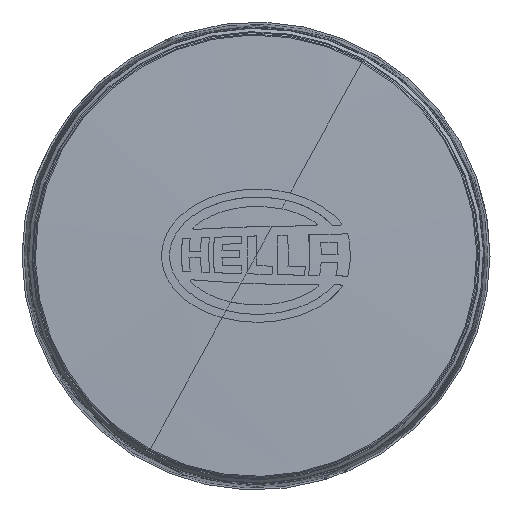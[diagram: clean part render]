
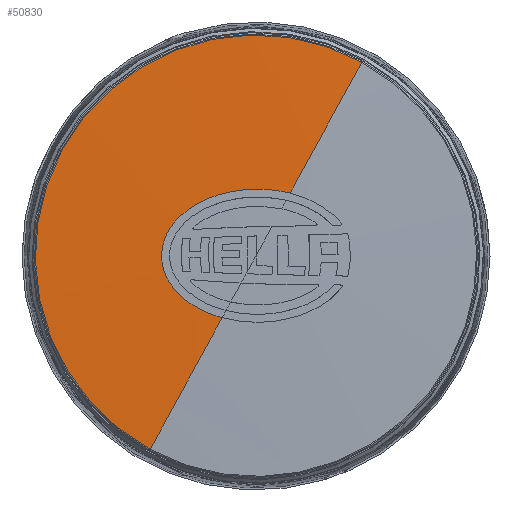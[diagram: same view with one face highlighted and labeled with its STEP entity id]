
A CAD part, top view. The second image highlights one B-rep face of the part: STEP entity #50830.
In plain terms, the highlighted spherical face has radius 2000 mm.
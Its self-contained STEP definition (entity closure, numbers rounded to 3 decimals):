
#5807=AXIS2_PLACEMENT_3D('Sphere Axis2P3D',#5804,#5805,#5806) ;
#50771=AXIS2_PLACEMENT_3D('Circle Axis2P3D',#50769,#50770,$) ;
#50785=AXIS2_PLACEMENT_3D('Circle Axis2P3D',#50783,#50784,$) ;
#50819=AXIS2_PLACEMENT_3D('Circle Axis2P3D',#50817,#50818,$) ;
#5804=CARTESIAN_POINT('Axis2P3D Location',(0.,0.,-1974.28)) ;
#42128=CARTESIAN_POINT('Vertex',(-30.151,-0.001,25.493)) ;
#42132=CARTESIAN_POINT('Control Point',(-30.151,-0.001,25.493)) ;
#42133=CARTESIAN_POINT('Control Point',(-30.151,-0.007,25.493)) ;
#42134=CARTESIAN_POINT('Control Point',(-30.152,-0.012,25.493)) ;
#42135=CARTESIAN_POINT('Control Point',(-30.151,-0.017,25.493)) ;
#42136=CARTESIAN_POINT('Control Point',(-30.151,-0.045,25.493)) ;
#42137=CARTESIAN_POINT('Control Point',(-30.151,-0.073,25.493)) ;
#42138=CARTESIAN_POINT('Control Point',(-30.151,-0.095,25.493)) ;
#42139=CARTESIAN_POINT('Control Point',(-30.15,-0.146,25.493)) ;
#42140=CARTESIAN_POINT('Control Point',(-30.15,-0.196,25.493)) ;
#42141=CARTESIAN_POINT('Control Point',(-30.149,-0.224,25.493)) ;
#42142=CARTESIAN_POINT('Control Point',(-30.148,-0.308,25.493)) ;
#42143=CARTESIAN_POINT('Control Point',(-30.146,-0.391,25.493)) ;
#42144=CARTESIAN_POINT('Control Point',(-30.145,-0.447,25.493)) ;
#42145=CARTESIAN_POINT('Control Point',(-30.14,-0.614,25.493)) ;
#42146=CARTESIAN_POINT('Control Point',(-30.132,-0.781,25.493)) ;
#42147=CARTESIAN_POINT('Control Point',(-30.126,-0.893,25.493)) ;
#42148=CARTESIAN_POINT('Control Point',(-30.105,-1.226,25.493)) ;
#42149=CARTESIAN_POINT('Control Point',(-30.075,-1.559,25.493)) ;
#42150=CARTESIAN_POINT('Control Point',(-30.05,-1.781,25.493)) ;
#42151=CARTESIAN_POINT('Control Point',(-29.965,-2.445,25.494)) ;
#42152=CARTESIAN_POINT('Control Point',(-29.844,-3.103,25.495)) ;
#42153=CARTESIAN_POINT('Control Point',(-29.747,-3.538,25.496)) ;
#42154=CARTESIAN_POINT('Control Point',(-29.474,-4.583,25.498)) ;
#42155=CARTESIAN_POINT('Control Point',(-29.112,-5.601,25.5)) ;
#42156=CARTESIAN_POINT('Control Point',(-28.871,-6.188,25.502)) ;
#42157=CARTESIAN_POINT('Control Point',(-28.525,-6.926,25.505)) ;
#42158=CARTESIAN_POINT('Control Point',(-28.138,-7.641,25.507)) ;
#42159=CARTESIAN_POINT('Control Point',(-28.049,-7.801,25.508)) ;
#42160=CARTESIAN_POINT('Control Point',(-27.461,-8.824,25.512)) ;
#42161=CARTESIAN_POINT('Control Point',(-26.794,-9.795,25.517)) ;
#42162=CARTESIAN_POINT('Control Point',(-26.19,-10.568,25.521)) ;
#42163=CARTESIAN_POINT('Control Point',(-25.025,-11.892,25.529)) ;
#42164=CARTESIAN_POINT('Control Point',(-23.762,-13.077,25.536)) ;
#42165=CARTESIAN_POINT('Control Point',(-23.195,-13.568,25.54)) ;
#42166=CARTESIAN_POINT('Control Point',(-20.451,-15.776,25.556)) ;
#42167=CARTESIAN_POINT('Control Point',(-17.517,-17.422,25.57)) ;
#42168=CARTESIAN_POINT('Control Point',(-15.24,-18.425,25.579)) ;
#42169=CARTESIAN_POINT('Control Point',(-13.007,-19.207,25.587)) ;
#42170=CARTESIAN_POINT('Control Point',(-10.82,-19.807,25.593)) ;
#42171=CARTESIAN_POINT('Vertex',(-10.82,-19.807,25.593)) ;
#42258=CARTESIAN_POINT('Vertex',(-30.151,0.007,25.493)) ;
#42262=CARTESIAN_POINT('Control Point',(-30.151,0.007,25.493)) ;
#42263=CARTESIAN_POINT('Control Point',(-30.151,0.004,25.493)) ;
#42264=CARTESIAN_POINT('Control Point',(-30.151,0.002,25.493)) ;
#42265=CARTESIAN_POINT('Control Point',(-30.151,-0.001,25.493)) ;
#42788=CARTESIAN_POINT('Vertex',(10.931,20.009,25.59)) ;
#42792=CARTESIAN_POINT('Control Point',(-30.151,0.007,25.493)) ;
#42793=CARTESIAN_POINT('Control Point',(-30.152,1.479,25.493)) ;
#42794=CARTESIAN_POINT('Control Point',(-29.976,2.95,25.494)) ;
#42795=CARTESIAN_POINT('Control Point',(-29.616,4.392,25.497)) ;
#42796=CARTESIAN_POINT('Control Point',(-29.024,5.951,25.501)) ;
#42797=CARTESIAN_POINT('Control Point',(-28.26,7.415,25.507)) ;
#42798=CARTESIAN_POINT('Control Point',(-28.172,7.578,25.507)) ;
#42799=CARTESIAN_POINT('Control Point',(-27.911,8.047,25.509)) ;
#42800=CARTESIAN_POINT('Control Point',(-27.634,8.505,25.511)) ;
#42801=CARTESIAN_POINT('Control Point',(-27.443,8.804,25.512)) ;
#42802=CARTESIAN_POINT('Control Point',(-27.184,9.19,25.514)) ;
#42803=CARTESIAN_POINT('Control Point',(-26.915,9.568,25.516)) ;
#42804=CARTESIAN_POINT('Control Point',(-26.848,9.66,25.516)) ;
#42805=CARTESIAN_POINT('Control Point',(-26.273,10.442,25.52)) ;
#42806=CARTESIAN_POINT('Control Point',(-25.655,11.184,25.524)) ;
#42807=CARTESIAN_POINT('Control Point',(-25.083,11.804,25.528)) ;
#42808=CARTESIAN_POINT('Control Point',(-24.096,12.781,25.534)) ;
#42809=CARTESIAN_POINT('Control Point',(-23.059,13.669,25.54)) ;
#42810=CARTESIAN_POINT('Control Point',(-22.641,14.009,25.543)) ;
#42811=CARTESIAN_POINT('Control Point',(-22.18,14.365,25.545)) ;
#42812=CARTESIAN_POINT('Control Point',(-21.714,14.705,25.548)) ;
#42813=CARTESIAN_POINT('Control Point',(-21.67,14.737,25.548)) ;
#42814=CARTESIAN_POINT('Control Point',(-21.593,14.793,25.549)) ;
#42815=CARTESIAN_POINT('Control Point',(-21.517,14.848,25.549)) ;
#42816=CARTESIAN_POINT('Control Point',(-21.477,14.876,25.549)) ;
#42817=CARTESIAN_POINT('Control Point',(-21.361,14.959,25.55)) ;
#42818=CARTESIAN_POINT('Control Point',(-21.244,15.041,25.551)) ;
#42819=CARTESIAN_POINT('Control Point',(-21.163,15.097,25.551)) ;
#42820=CARTESIAN_POINT('Control Point',(-21.03,15.188,25.552)) ;
#42821=CARTESIAN_POINT('Control Point',(-20.896,15.279,25.552)) ;
#42822=CARTESIAN_POINT('Control Point',(-20.841,15.316,25.553)) ;
#42823=CARTESIAN_POINT('Control Point',(-19.74,16.052,25.559)) ;
#42824=CARTESIAN_POINT('Control Point',(-18.624,16.71,25.564)) ;
#42825=CARTESIAN_POINT('Control Point',(-17.56,17.268,25.569)) ;
#42826=CARTESIAN_POINT('Control Point',(-15.805,18.094,25.576)) ;
#42827=CARTESIAN_POINT('Control Point',(-14.065,18.773,25.583)) ;
#42828=CARTESIAN_POINT('Control Point',(-13.382,19.02,25.585)) ;
#42829=CARTESIAN_POINT('Control Point',(-7.916,20.849,25.603)) ;
#42830=CARTESIAN_POINT('Control Point',(-2.721,21.484,25.61)) ;
#42831=CARTESIAN_POINT('Control Point',(1.582,21.575,25.61)) ;
#42832=CARTESIAN_POINT('Control Point',(6.121,21.224,25.604)) ;
#42833=CARTESIAN_POINT('Control Point',(10.931,20.009,25.59)) ;
#50769=CARTESIAN_POINT('Axis2P3D Location',(0.,0.,-1974.28)) ;
#50773=CARTESIAN_POINT('Vertex',(-33.795,-61.862,24.477)) ;
#50780=CARTESIAN_POINT('Vertex',(33.795,61.862,24.477)) ;
#50783=CARTESIAN_POINT('Axis2P3D Location',(0.,0.,-1974.28)) ;
#50817=CARTESIAN_POINT('Axis2P3D Location',(0.,0.,24.477)) ;
#5805=DIRECTION('Axis2P3D Direction',(0.,-0.,-1.)) ;
#5806=DIRECTION('Axis2P3D XDirection',(-0.479,-0.878,0.)) ;
#50770=DIRECTION('Axis2P3D Direction',(0.878,-0.479,0.)) ;
#50784=DIRECTION('Axis2P3D Direction',(-0.878,0.479,0.)) ;
#50818=DIRECTION('Axis2P3D Direction',(0.,-0.,-1.)) ;
#50823=ORIENTED_EDGE('',*,*,#50787,.F.) ;
#50824=ORIENTED_EDGE('',*,*,#50821,.F.) ;
#50825=ORIENTED_EDGE('',*,*,#50775,.T.) ;
#50826=ORIENTED_EDGE('',*,*,#42173,.F.) ;
#50827=ORIENTED_EDGE('',*,*,#42266,.F.) ;
#50828=ORIENTED_EDGE('',*,*,#42834,.T.) ;
#50830=ADVANCED_FACE('Edge_Light_Beacon_Housing_RG.1\\Body.Housing 15.02.2019',(#50829),#5808,.T.) ;
#42131=B_SPLINE_CURVE_WITH_KNOTS('',5,(#42132,#42133,#42134,#42135,#42136,#42137,#42138,#42139,#42140,#42141,#42142,#42143,#42144,#42145,#42146,#42147,#42148,#42149,#42150,#42151,#42152,#42153,#42154,#42155,#42156,#42157,#42158,#42159,#42160,#42161,#42162,#42163,#42164,#42165,#42166,#42167,#42168,#42169,#42170),.UNSPECIFIED.,.F.,.U.,(6,3,3,3,3,3,3,3,3,3,3,3,6),(0.,1.742,9.262,18.525,37.05,74.1,148.2,296.4,507.066,567.713,901.54,1167.564,2146.504),.UNSPECIFIED.) ;
#42261=B_SPLINE_CURVE_WITH_KNOTS('',3,(#42262,#42263,#42264,#42265),.UNSPECIFIED.,.F.,.U.,(4,4),(0.,0.601),.UNSPECIFIED.) ;
#42791=B_SPLINE_CURVE_WITH_KNOTS('',5,(#42792,#42793,#42794,#42795,#42796,#42797,#42798,#42799,#42800,#42801,#42802,#42803,#42804,#42805,#42806,#42807,#42808,#42809,#42810,#42811,#42812,#42813,#42814,#42815,#42816,#42817,#42818,#42819,#42820,#42821,#42822,#42823,#42824,#42825,#42826,#42827,#42828,#42829,#42830,#42831,#42832,#42833),.UNSPECIFIED.,.F.,.U.,(6,3,3,3,3,3,3,3,3,3,3,3,3,6),(0.,488.868,551.094,668.005,707.252,995.19,1185.543,1202.258,1219.582,1253.995,1278.263,1736.792,2036.581,4145.932),.UNSPECIFIED.) ;
#50772=CIRCLE('generated circle',#50771,2000.) ;
#50786=CIRCLE('generated circle',#50785,2000.) ;
#50820=CIRCLE('generated circle',#50819,70.491) ;
#42173=EDGE_CURVE('',#42129,#42172,#42131,.T.) ;
#42266=EDGE_CURVE('',#42259,#42129,#42261,.T.) ;
#42834=EDGE_CURVE('',#42259,#42789,#42791,.T.) ;
#50775=EDGE_CURVE('',#50774,#42172,#50772,.F.) ;
#50787=EDGE_CURVE('',#50781,#42789,#50786,.F.) ;
#50821=EDGE_CURVE('',#50774,#50781,#50820,.T.) ;
#50822=EDGE_LOOP('',(#50823,#50824,#50825,#50826,#50827,#50828)) ;
#50829=FACE_OUTER_BOUND('',#50822,.T.) ;
#5808=SPHERICAL_SURFACE('',#5807,2000.) ;
#42129=VERTEX_POINT('',#42128) ;
#42172=VERTEX_POINT('',#42171) ;
#42259=VERTEX_POINT('',#42258) ;
#42789=VERTEX_POINT('',#42788) ;
#50774=VERTEX_POINT('',#50773) ;
#50781=VERTEX_POINT('',#50780) ;
